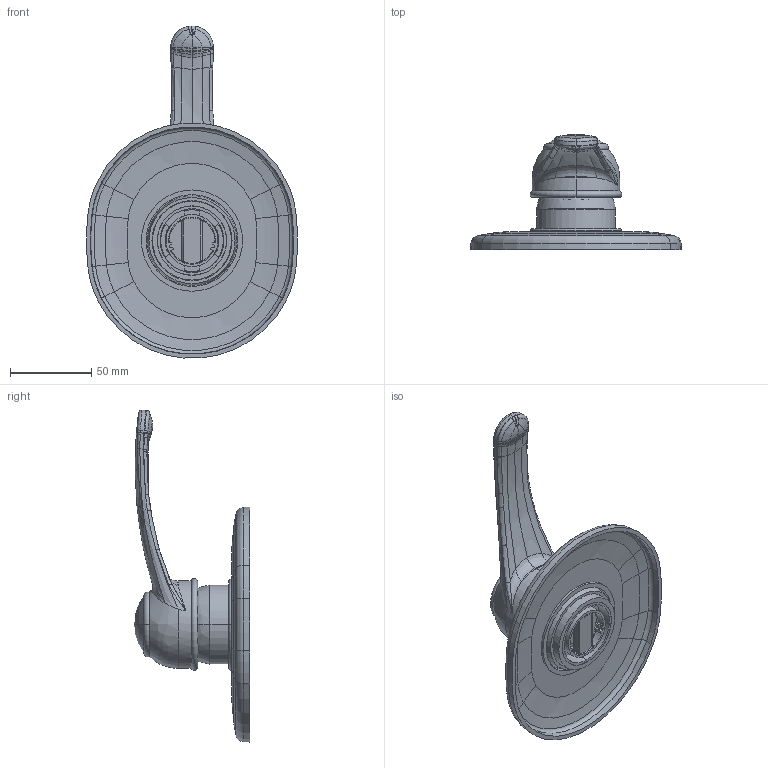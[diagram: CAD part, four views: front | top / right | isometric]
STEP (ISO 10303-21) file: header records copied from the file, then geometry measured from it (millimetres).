
FILE_DESCRIPTION((''),'2;1');
FILE_NAME('29016_SW0001','2026-05-15T15:25:35',('carloff'),(''),'CREO PARAMETRIC BY PTC INC, 2022014','CREO PARAMETRIC BY PTC INC, 2022014','');
FILE_SCHEMA(('CONFIG_CONTROL_DESIGN'));
Products named in the file (1): 29016_SW0001
Bounding box: 129.8 x 71.11 x 204.35 mm (x, y, z)
Volume: 128840.8 mm3; surface area: 98852.1 mm2
Topology: 3 solids, 3 shells, 1629 faces, 4350 edges, 2705 vertices
Faces by surface type: plane 510, cylinder 504, bspline 297, torus 195, cone 81, sphere 42
Entity records: 67063 total; most frequent: CARTESIAN_POINT 28083, ORIENTED_EDGE 8684, DIRECTION 7692, EDGE_CURVE 4342, AXIS2_PLACEMENT_3D 3007, VERTEX_POINT 2705, EDGE_LOOP 1709, VECTOR 1678
